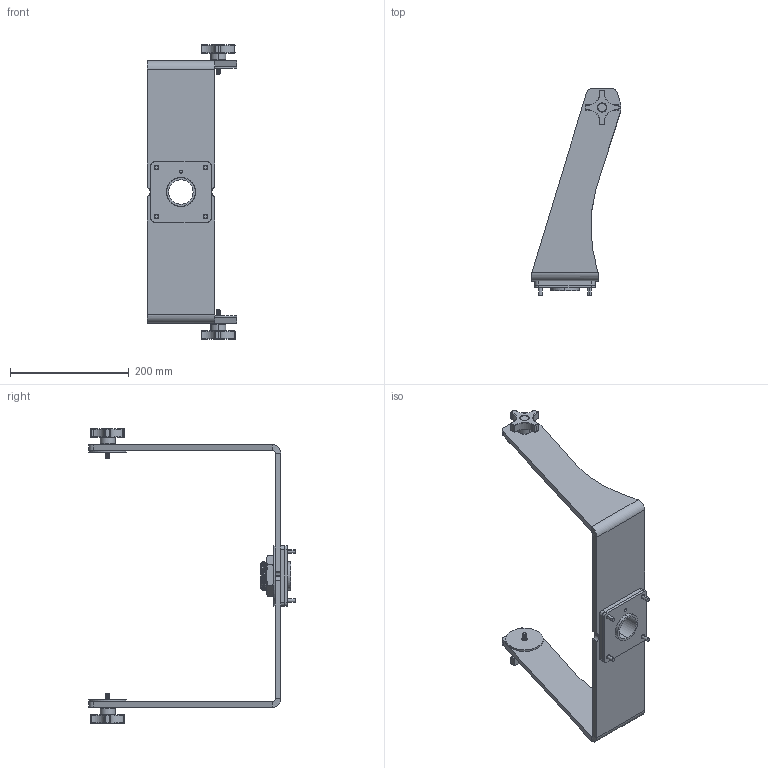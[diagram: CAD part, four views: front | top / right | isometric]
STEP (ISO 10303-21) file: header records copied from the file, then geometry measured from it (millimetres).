
FILE_DESCRIPTION (( 'STEP AP214' ), '1' );
FILE_NAME ('Pedestal and Benchtop Yoke for 15 and 17 inch Universal Mount Monitor, YB1517.STEP', '2017-07-18T14:25:52', ( '' ), ( '' ), 'SwSTEP 2.0', 'SolidWorks 2017', '' );
FILE_SCHEMA (( 'AUTOMOTIVE_DESIGN' ));
Length unit declared in the file: inch
Products named in the file (12): Knob, 30053; Rubber Washer, 10177; Bushing, 30500; Nut, 30060; Washer, 10143; Screw, 30078_CR-FHMS 0.25-20x0.875x0.875-N; Bench Plate, 10105; 9157K370_STD-WALL 304-304L SS THRD ONE END PIPE NIPPLE_9157K37; 10105; Bearing Plate, 10078; Pedestal and Benchtop Yoke for 15 and 17 inch Universal Mount Monitor, YB1517; All Yoke Configurations, YBxx_YK1517
Assembly tree (17 placements, depth 3):
  Pedestal and Benchtop Yoke for 15 and 17 inch Universal Mount Monitor, YB1517
    All Yoke Configurations, YBxx_YK1517
    Bearing Plate, 10078
    Bench Plate, 10105
      10105
      9157K370_STD-WALL 304-304L SS THRD ONE END PIPE NIPPLE_9157K37
    Screw, 30078_CR-FHMS 0.25-20x0.875x0.875-N  x4
    Washer, 10143
    Nut, 30060
    Bushing, 30500  x2
    Rubber Washer, 10177  x2
    Knob, 30053  x2
Bounding box: 151.52 x 347.72 x 495.96 mm (x, y, z)
Volume: 1093004.7 mm3; surface area: 317716 mm2
Topology: 16 solids, 16 shells, 808 faces, 1799 edges, 1020 vertices
Faces by surface type: cylinder 344, cone 239, plane 128, torus 48, sphere 40, bspline 9
Entity records: 24011 total; most frequent: CARTESIAN_POINT 12632, DIRECTION 2319, ORIENTED_EDGE 2230, EDGE_CURVE 1115, AXIS2_PLACEMENT_3D 932, VERTEX_POINT 653, EDGE_LOOP 532, FACE_OUTER_BOUND 488
